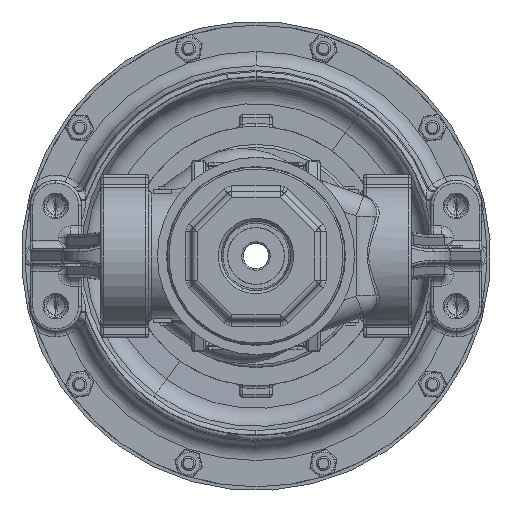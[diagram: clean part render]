
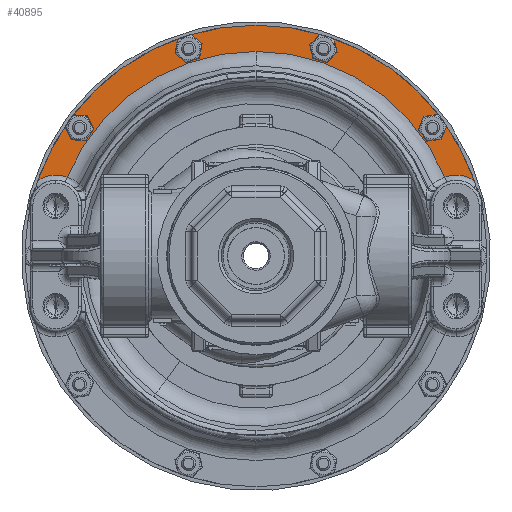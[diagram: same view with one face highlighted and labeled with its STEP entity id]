
A CAD part, front view. The second image highlights one B-rep face of the part: STEP entity #40895.
In plain terms, the highlighted planar face has unit normal (0, -1, 0) as drawn and (0, 1, 0) by its records, which use the part's own axes.
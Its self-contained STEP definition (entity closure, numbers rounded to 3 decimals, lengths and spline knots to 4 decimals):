
#6902 = DIRECTION ( 'NONE',  ( 0., -1., 0. ) ) ;
#7029 = PLANE ( 'NONE',  #113924 ) ;
#7031 = CARTESIAN_POINT ( 'NONE',  ( 4.125, 0.38, 0. ) ) ;
#7036 = DIRECTION ( 'NONE',  ( 0., 0., -1. ) ) ;
#40895 = ADVANCED_FACE ( 'NONE', ( #138000, #137991, #137995, #137999, #137998 ), #7029, .F. ) ;
#46678 = CARTESIAN_POINT ( 'NONE',  ( -3.0844, 0.38, 2.0881 ) ) ;
#46710 = CARTESIAN_POINT ( 'NONE',  ( 3.0844, 0.38, 2.0881 ) ) ;
#46712 = CARTESIAN_POINT ( 'NONE',  ( -3.0844, 0.38, 2.3937 ) ) ;
#46744 = CARTESIAN_POINT ( 'NONE',  ( -1.1781, 0.38, 3.7787 ) ) ;
#46752 = CARTESIAN_POINT ( 'NONE',  ( 1.1781, 0.38, 3.7787 ) ) ;
#46798 = CARTESIAN_POINT ( 'NONE',  ( 1.1781, 0.38, 3.4731 ) ) ;
#46805 = CARTESIAN_POINT ( 'NONE',  ( 3.0844, 0.38, 2.3937 ) ) ;
#46844 = CARTESIAN_POINT ( 'NONE',  ( -1.1781, 0.38, 3.4731 ) ) ;
#57118 = CIRCLE ( 'NONE', #107730, 4.035 ) ;
#57368 = CIRCLE ( 'NONE', #107912, 0.1528 ) ;
#57386 = CIRCLE ( 'NONE', #107918, 0.1528 ) ;
#57403 = CIRCLE ( 'NONE', #107924, 0.1528 ) ;
#57419 = CIRCLE ( 'NONE', #107931, 0.1528 ) ;
#57984 = CIRCLE ( 'NONE', #108332, 3.5756 ) ;
#61726 = VERTEX_POINT ( 'NONE', #46678 ) ;
#61746 = VERTEX_POINT ( 'NONE', #46710 ) ;
#61747 = VERTEX_POINT ( 'NONE', #46712 ) ;
#62927 = VERTEX_POINT ( 'NONE', #46744 ) ;
#62934 = VERTEX_POINT ( 'NONE', #46752 ) ;
#62985 = VERTEX_POINT ( 'NONE', #46798 ) ;
#62992 = VERTEX_POINT ( 'NONE', #46805 ) ;
#63036 = VERTEX_POINT ( 'NONE', #46844 ) ;
#71016 = EDGE_LOOP ( 'NONE', ( #85217, #85219 ) ) ;
#71019 = EDGE_LOOP ( 'NONE', ( #85232, #85233, #85235, #85237, #85238, #85239 ) ) ;
#74702 = CARTESIAN_POINT ( 'NONE',  ( 0., 0.38, 0. ) ) ;
#74705 = DIRECTION ( 'NONE',  ( 0., 1., 0. ) ) ;
#74706 = DIRECTION ( 'NONE',  ( 0., 0., -1. ) ) ;
#76269 = CARTESIAN_POINT ( 'NONE',  ( -3.0844, 0.38, 2.2409 ) ) ;
#76272 = DIRECTION ( 'NONE',  ( 0., -1., 0. ) ) ;
#76274 = DIRECTION ( 'NONE',  ( 0., 0., -1. ) ) ;
#76305 = CARTESIAN_POINT ( 'NONE',  ( -1.1781, 0.38, 3.6259 ) ) ;
#76308 = DIRECTION ( 'NONE',  ( 0., -1., 0. ) ) ;
#76311 = DIRECTION ( 'NONE',  ( 0., 0., -1. ) ) ;
#76342 = CARTESIAN_POINT ( 'NONE',  ( 1.1781, 0.38, 3.6259 ) ) ;
#76345 = DIRECTION ( 'NONE',  ( 0., -1., 0. ) ) ;
#76347 = DIRECTION ( 'NONE',  ( 0., 0., -1. ) ) ;
#76378 = CARTESIAN_POINT ( 'NONE',  ( 3.0844, 0.38, 2.2409 ) ) ;
#76380 = DIRECTION ( 'NONE',  ( 0., -1., 0. ) ) ;
#76383 = DIRECTION ( 'NONE',  ( 0., 0., -1. ) ) ;
#78929 = EDGE_CURVE ( 'NONE', #123698, #123733, #57118, .T. ) ;
#79227 = EDGE_CURVE ( 'NONE', #61747, #61726, #57368, .T. ) ;
#79236 = EDGE_CURVE ( 'NONE', #62927, #63036, #57386, .T. ) ;
#79245 = EDGE_CURVE ( 'NONE', #62934, #62985, #57403, .T. ) ;
#79255 = EDGE_CURVE ( 'NONE', #62992, #61746, #57419, .T. ) ;
#79877 = EDGE_CURVE ( 'NONE', #90502, #90734, #57984, .T. ) ;
#83444 = CARTESIAN_POINT ( 'NONE',  ( 0., 0.38, 0. ) ) ;
#83446 = DIRECTION ( 'NONE',  ( 0., 1., 0. ) ) ;
#83447 = DIRECTION ( 'NONE',  ( 0., 0., 1. ) ) ;
#85217 = ORIENTED_EDGE ( 'NONE', *, *, #79255, .T. ) ;
#85219 = ORIENTED_EDGE ( 'NONE', *, *, #110557, .T. ) ;
#85221 = ORIENTED_EDGE ( 'NONE', *, *, #79245, .T. ) ;
#85223 = ORIENTED_EDGE ( 'NONE', *, *, #110558, .T. ) ;
#85225 = ORIENTED_EDGE ( 'NONE', *, *, #79236, .T. ) ;
#85227 = ORIENTED_EDGE ( 'NONE', *, *, #110559, .T. ) ;
#85229 = ORIENTED_EDGE ( 'NONE', *, *, #79227, .T. ) ;
#85231 = ORIENTED_EDGE ( 'NONE', *, *, #110560, .T. ) ;
#85232 = ORIENTED_EDGE ( 'NONE', *, *, #110561, .T. ) ;
#85233 = ORIENTED_EDGE ( 'NONE', *, *, #110562, .T. ) ;
#85235 = ORIENTED_EDGE ( 'NONE', *, *, #78929, .T. ) ;
#85237 = ORIENTED_EDGE ( 'NONE', *, *, #110563, .T. ) ;
#85238 = ORIENTED_EDGE ( 'NONE', *, *, #79877, .F. ) ;
#85239 = ORIENTED_EDGE ( 'NONE', *, *, #110564, .F. ) ;
#88170 = VERTEX_POINT ( 'NONE', #93948 ) ;
#88178 = VERTEX_POINT ( 'NONE', #93957 ) ;
#90502 = VERTEX_POINT ( 'NONE', #95860 ) ;
#90734 = VERTEX_POINT ( 'NONE', #96060 ) ;
#91022 = CIRCLE ( 'NONE', #109583, 0.1528 ) ;
#91057 = CIRCLE ( 'NONE', #109586, 0.1528 ) ;
#91060 = CIRCLE ( 'NONE', #109588, 0.1528 ) ;
#91063 = CIRCLE ( 'NONE', #109590, 0.1528 ) ;
#91066 = CIRCLE ( 'NONE', #109592, 0.54 ) ;
#91069 = CIRCLE ( 'NONE', #109594, 4.035 ) ;
#91072 = CIRCLE ( 'NONE', #109596, 0.54 ) ;
#91076 = CIRCLE ( 'NONE', #109598, 3.5756 ) ;
#93948 = CARTESIAN_POINT ( 'NONE',  ( -3.3, 0.38, 1.3766 ) ) ;
#93957 = CARTESIAN_POINT ( 'NONE',  ( -3.8153, 0.38, 1.3134 ) ) ;
#95860 = CARTESIAN_POINT ( 'NONE',  ( 0., 0.38, 3.5756 ) ) ;
#96060 = CARTESIAN_POINT ( 'NONE',  ( 3.3, 0.38, 1.3766 ) ) ;
#100761 = EDGE_LOOP ( 'NONE', ( #85221, #85223 ) ) ;
#100811 = EDGE_LOOP ( 'NONE', ( #85229, #85231 ) ) ;
#100875 = EDGE_LOOP ( 'NONE', ( #85225, #85227 ) ) ;
#105084 = CARTESIAN_POINT ( 'NONE',  ( 3.0844, 0.38, 2.2409 ) ) ;
#105087 = DIRECTION ( 'NONE',  ( 0., -1., 0. ) ) ;
#105090 = DIRECTION ( 'NONE',  ( 0., 0., -1. ) ) ;
#105097 = CARTESIAN_POINT ( 'NONE',  ( 1.1781, 0.38, 3.6259 ) ) ;
#105100 = DIRECTION ( 'NONE',  ( 0., -1., 0. ) ) ;
#105103 = DIRECTION ( 'NONE',  ( 0., 0., -1. ) ) ;
#105110 = CARTESIAN_POINT ( 'NONE',  ( -1.1781, 0.38, 3.6259 ) ) ;
#105113 = DIRECTION ( 'NONE',  ( 0., -1., 0. ) ) ;
#105116 = DIRECTION ( 'NONE',  ( 0., 0., -1. ) ) ;
#105123 = CARTESIAN_POINT ( 'NONE',  ( -3.0844, 0.38, 2.2409 ) ) ;
#105126 = DIRECTION ( 'NONE',  ( 0., -1., 0. ) ) ;
#105129 = DIRECTION ( 'NONE',  ( 0., 0., -1. ) ) ;
#105136 = CARTESIAN_POINT ( 'NONE',  ( -3.5, 0.38, 0.875 ) ) ;
#105139 = DIRECTION ( 'NONE',  ( 0., -1., 0. ) ) ;
#105142 = DIRECTION ( 'NONE',  ( 0., 0., -1. ) ) ;
#105149 = CARTESIAN_POINT ( 'NONE',  ( 0., 0.38, 0. ) ) ;
#105152 = DIRECTION ( 'NONE',  ( 0., 1., 0. ) ) ;
#105155 = DIRECTION ( 'NONE',  ( 0., 0., -1. ) ) ;
#105162 = CARTESIAN_POINT ( 'NONE',  ( 3.5, 0.38, 0.875 ) ) ;
#105165 = DIRECTION ( 'NONE',  ( 0., -1., 0. ) ) ;
#105168 = DIRECTION ( 'NONE',  ( 0., 0., -1. ) ) ;
#105175 = CARTESIAN_POINT ( 'NONE',  ( 0., 0.38, 0. ) ) ;
#105178 = DIRECTION ( 'NONE',  ( 0., 1., 0. ) ) ;
#105181 = DIRECTION ( 'NONE',  ( 0., 0., 1. ) ) ;
#107730 = AXIS2_PLACEMENT_3D ( 'NONE', #74702, #74705, #74706 ) ;
#107912 = AXIS2_PLACEMENT_3D ( 'NONE', #76269, #76272, #76274 ) ;
#107918 = AXIS2_PLACEMENT_3D ( 'NONE', #76305, #76308, #76311 ) ;
#107924 = AXIS2_PLACEMENT_3D ( 'NONE', #76342, #76345, #76347 ) ;
#107931 = AXIS2_PLACEMENT_3D ( 'NONE', #76378, #76380, #76383 ) ;
#108332 = AXIS2_PLACEMENT_3D ( 'NONE', #83444, #83446, #83447 ) ;
#109583 = AXIS2_PLACEMENT_3D ( 'NONE', #105084, #105087, #105090 ) ;
#109586 = AXIS2_PLACEMENT_3D ( 'NONE', #105097, #105100, #105103 ) ;
#109588 = AXIS2_PLACEMENT_3D ( 'NONE', #105110, #105113, #105116 ) ;
#109590 = AXIS2_PLACEMENT_3D ( 'NONE', #105123, #105126, #105129 ) ;
#109592 = AXIS2_PLACEMENT_3D ( 'NONE', #105136, #105139, #105142 ) ;
#109594 = AXIS2_PLACEMENT_3D ( 'NONE', #105149, #105152, #105155 ) ;
#109596 = AXIS2_PLACEMENT_3D ( 'NONE', #105162, #105165, #105168 ) ;
#109598 = AXIS2_PLACEMENT_3D ( 'NONE', #105175, #105178, #105181 ) ;
#110557 = EDGE_CURVE ( 'NONE', #61746, #62992, #91022, .T. ) ;
#110558 = EDGE_CURVE ( 'NONE', #62985, #62934, #91057, .T. ) ;
#110559 = EDGE_CURVE ( 'NONE', #63036, #62927, #91060, .T. ) ;
#110560 = EDGE_CURVE ( 'NONE', #61726, #61747, #91063, .T. ) ;
#110561 = EDGE_CURVE ( 'NONE', #88170, #88178, #91066, .T. ) ;
#110562 = EDGE_CURVE ( 'NONE', #88178, #123698, #91069, .T. ) ;
#110563 = EDGE_CURVE ( 'NONE', #123733, #90734, #91072, .T. ) ;
#110564 = EDGE_CURVE ( 'NONE', #88170, #90502, #91076, .T. ) ;
#113924 = AXIS2_PLACEMENT_3D ( 'NONE', #7031, #6902, #7036 ) ;
#123698 = VERTEX_POINT ( 'NONE', #129075 ) ;
#123733 = VERTEX_POINT ( 'NONE', #129097 ) ;
#129075 = CARTESIAN_POINT ( 'NONE',  ( 0., 0.38, 4.035 ) ) ;
#129097 = CARTESIAN_POINT ( 'NONE',  ( 3.8153, 0.38, 1.3134 ) ) ;
#137991 = FACE_BOUND ( 'NONE', #100761, .T. ) ;
#137995 = FACE_BOUND ( 'NONE', #100875, .T. ) ;
#137998 = FACE_OUTER_BOUND ( 'NONE', #71019, .T. ) ;
#137999 = FACE_BOUND ( 'NONE', #100811, .T. ) ;
#138000 = FACE_BOUND ( 'NONE', #71016, .T. ) ;
